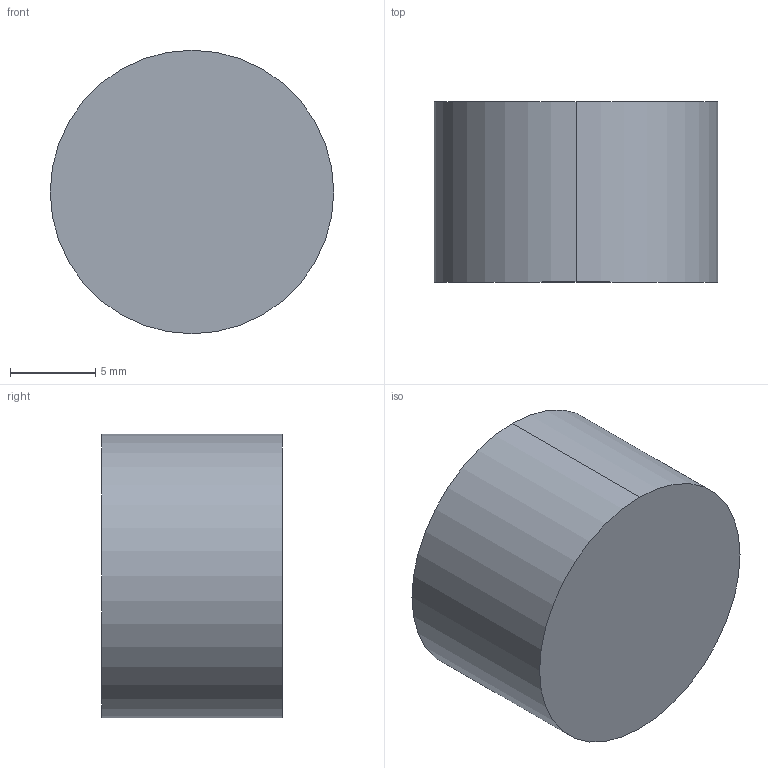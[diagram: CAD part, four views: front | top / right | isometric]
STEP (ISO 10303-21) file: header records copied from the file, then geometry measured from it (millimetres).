
FILE_DESCRIPTION (( 'STEP AP214' ), '1' );
FILE_NAME ('Plug- 04 WK Fluid Port.STEP', '2014-07-24T14:23:09', ( '' ), ( '' ), 'SwSTEP 2.0', 'SolidWorks 2012', '' );
FILE_SCHEMA (( 'AUTOMOTIVE_DESIGN' ));
Length unit declared in the file: inch
Products named in the file (1): Plug- 04 WK Fluid Port
Bounding box: 16.64 x 10.59 x 16.64 mm (x, y, z)
Volume: 2176 mm3; surface area: 1144 mm2
Topology: 1 solids, 1 shells, 13 faces, 24 edges, 16 vertices
Faces by surface type: cylinder 8, plane 5
Entity records: 413 total; most frequent: DIRECTION 68, CARTESIAN_POINT 54, ORIENTED_EDGE 48, AXIS2_PLACEMENT_3D 30, EDGE_CURVE 24, CIRCLE 16, EDGE_LOOP 16, VERTEX_POINT 16
